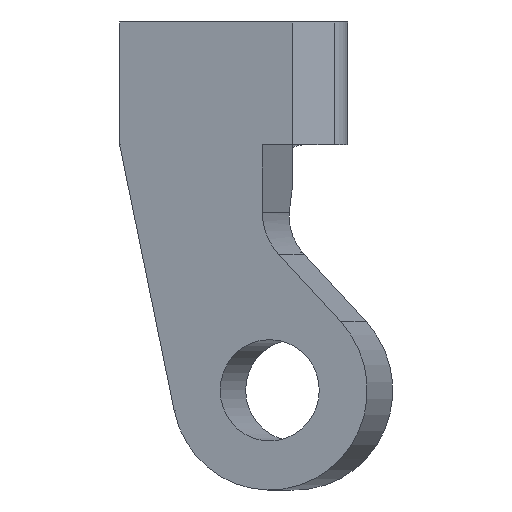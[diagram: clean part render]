
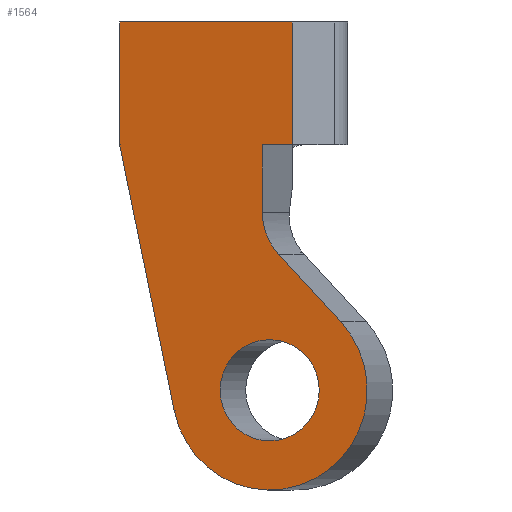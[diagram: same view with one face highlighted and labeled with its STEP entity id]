
A CAD part, front view. The second image highlights one B-rep face of the part: STEP entity #1564.
In plain terms, the highlighted planar face has unit normal (-0.208, -0.978, 0).
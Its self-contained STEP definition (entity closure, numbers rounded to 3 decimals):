
#16=FACE_BOUND('',#158,.T.);
#27=PLANE('',#1747);
#73=FACE_OUTER_BOUND('',#157,.T.);
#157=EDGE_LOOP('',(#1209,#1210,#1211,#1212,#1213,#1214,#1215,#1216,#1217));
#158=EDGE_LOOP('',(#1218));
#229=CIRCLE('',#1656,2.);
#267=CIRCLE('',#1704,1.65);
#268=CIRCLE('',#1708,3.25);
#313=LINE('',#2335,#468);
#349=LINE('',#2490,#504);
#355=LINE('',#2507,#510);
#356=LINE('',#2510,#511);
#358=LINE('',#2516,#513);
#391=LINE('',#2656,#546);
#392=LINE('',#2657,#547);
#468=VECTOR('',#1835,10.);
#504=VECTOR('',#1953,10.);
#510=VECTOR('',#1971,10.);
#511=VECTOR('',#1974,10.);
#513=VECTOR('',#1982,10.);
#546=VECTOR('',#2091,10.);
#547=VECTOR('',#2092,10.);
#625=VERTEX_POINT('',#2326);
#626=VERTEX_POINT('',#2328);
#628=VERTEX_POINT('',#2334);
#697=VERTEX_POINT('',#2487);
#698=VERTEX_POINT('',#2489);
#701=VERTEX_POINT('',#2499);
#703=VERTEX_POINT('',#2505);
#704=VERTEX_POINT('',#2509);
#705=VERTEX_POINT('',#2515);
#774=VERTEX_POINT('',#2655);
#786=EDGE_CURVE('',#625,#626,#229,.T.);
#789=EDGE_CURVE('',#626,#628,#313,.T.);
#863=EDGE_CURVE('',#697,#698,#349,.T.);
#869=EDGE_CURVE('',#701,#701,#267,.T.);
#872=EDGE_CURVE('',#703,#625,#355,.T.);
#873=EDGE_CURVE('',#704,#697,#356,.T.);
#875=EDGE_CURVE('',#628,#704,#268,.T.);
#876=EDGE_CURVE('',#698,#705,#358,.T.);
#946=EDGE_CURVE('',#774,#703,#391,.T.);
#947=EDGE_CURVE('',#774,#705,#392,.T.);
#1209=ORIENTED_EDGE('',*,*,#876,.F.);
#1210=ORIENTED_EDGE('',*,*,#863,.F.);
#1211=ORIENTED_EDGE('',*,*,#873,.F.);
#1212=ORIENTED_EDGE('',*,*,#875,.F.);
#1213=ORIENTED_EDGE('',*,*,#789,.F.);
#1214=ORIENTED_EDGE('',*,*,#786,.F.);
#1215=ORIENTED_EDGE('',*,*,#872,.F.);
#1216=ORIENTED_EDGE('',*,*,#946,.F.);
#1217=ORIENTED_EDGE('',*,*,#947,.T.);
#1218=ORIENTED_EDGE('',*,*,#869,.F.);
#1564=ADVANCED_FACE('',(#73,#16),#27,.F.);
#1656=AXIS2_PLACEMENT_3D('',#2329,#1828,#1829);
#1704=AXIS2_PLACEMENT_3D('',#2501,#1965,#1966);
#1708=AXIS2_PLACEMENT_3D('',#2513,#1978,#1979);
#1747=AXIS2_PLACEMENT_3D('',#2654,#2089,#2090);
#1828=DIRECTION('center_axis',(-0.208,-0.978,0.));
#1829=DIRECTION('ref_axis',(-0.909,0.193,-0.369));
#1835=DIRECTION('',(0.67,-0.142,-0.728));
#1953=DIRECTION('',(0.,0.,1.));
#1965=DIRECTION('center_axis',(-0.208,-0.978,0.));
#1966=DIRECTION('ref_axis',(0.978,-0.208,0.));
#1971=DIRECTION('',(0.,0.,-1.));
#1974=DIRECTION('',(-0.201,0.043,0.979));
#1978=DIRECTION('center_axis',(0.208,0.978,0.));
#1979=DIRECTION('ref_axis',(-0.978,0.208,0.));
#1982=DIRECTION('',(0.978,-0.208,0.));
#2089=DIRECTION('center_axis',(0.208,0.978,0.));
#2090=DIRECTION('ref_axis',(0.978,-0.208,0.));
#2091=DIRECTION('',(-0.978,0.208,0.));
#2092=DIRECTION('',(0.,0.,1.));
#2326=CARTESIAN_POINT('',(2.697,0.208,-4.207));
#2328=CARTESIAN_POINT('',(3.229,0.095,-5.578));
#2329=CARTESIAN_POINT('Origin',(4.653,-0.208,-4.207));
#2334=CARTESIAN_POINT('',(5.249,-0.335,-7.773));
#2335=CARTESIAN_POINT('',(2.697,0.208,-5.));
#2487=CARTESIAN_POINT('',(-1.956,1.197,-2.));
#2489=CARTESIAN_POINT('',(-1.956,1.197,2.));
#2490=CARTESIAN_POINT('',(-1.956,1.197,-2.));
#2499=CARTESIAN_POINT('',(1.32,0.5,-10.));
#2501=CARTESIAN_POINT('Origin',(2.934,0.157,-10.));
#2505=CARTESIAN_POINT('',(2.697,0.208,-2.));
#2507=CARTESIAN_POINT('',(2.697,0.208,-2.));
#2509=CARTESIAN_POINT('',(-0.177,0.819,-10.668));
#2510=CARTESIAN_POINT('',(-0.177,0.819,-10.668));
#2513=CARTESIAN_POINT('Origin',(2.934,0.157,-10.));
#2515=CARTESIAN_POINT('',(3.675,0.,2.));
#2516=CARTESIAN_POINT('',(-15.645,4.107,2.));
#2654=CARTESIAN_POINT('Origin',(-8.217,2.528,2.));
#2655=CARTESIAN_POINT('',(3.675,0.,-2.));
#2656=CARTESIAN_POINT('',(-3.732,1.574,-2.));
#2657=CARTESIAN_POINT('',(3.675,0.,0.));
